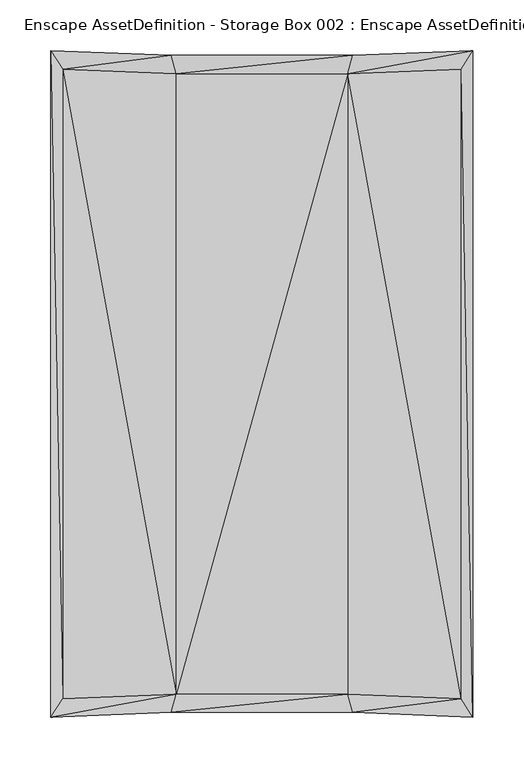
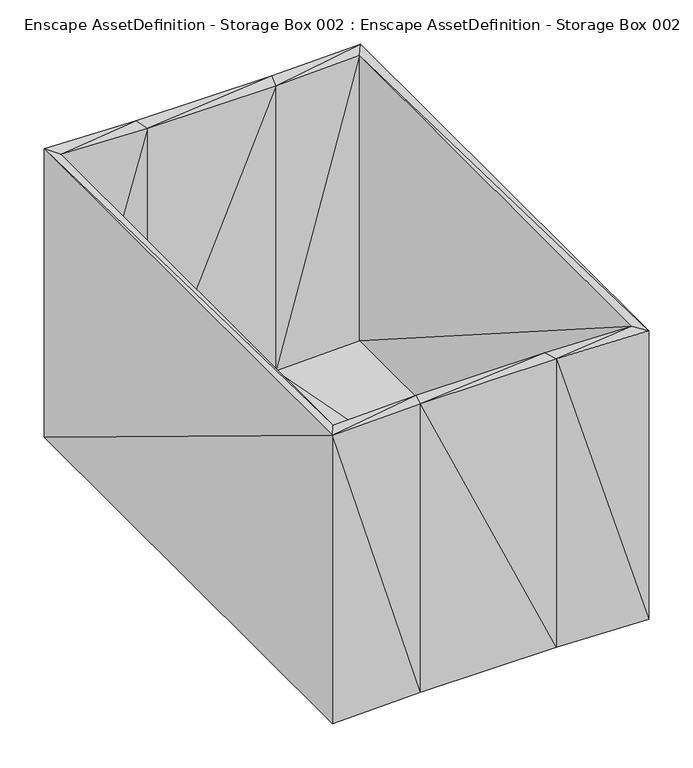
"""IFC4 building model written with IfcOpenShell, lengths in millimetres: geographic element geometry, Enscape AssetDefinition - Storage Box 002 : Enscape AssetDefinition - Storage Box 002."""

import ifcopenshell
import ifcopenshell.guid

model = None  # the IFC model being written
_history = None  # IfcOwnerHistory: only IFC2X3 demands one
_inside = {}  # id of a spatial element -> (the spatial element, [elements in it])
_under = {}  # id of a project, library or spatial element -> (it, [spatial elements below it])
_declared = {}  # id of a project -> (the project, [libraries it declares])
_typed = {}  # id of a type object -> (the type object, [elements of that type])
_made_of = {}  # id of a material, layer set ... -> (it, [elements and type objects made of it])


def new_model(schema):
    """Start an empty IFC model of exactly this schema.

    Asked for "IFC4X3", IfcOpenShell would pick the latest addendum, in which some entities
    have other attributes; the version numbers below select the first issue.
    IFC2X3 requires an IfcOwnerHistory on every rooted entity: one is made here for all.
    """
    global model, _history
    if schema == "IFC4X3":
        model = ifcopenshell.file(schema_version=(4, 3, 0, 0))
    else:
        model = ifcopenshell.file(schema=schema)
    _inside.clear()
    _under.clear()
    _declared.clear()
    _typed.clear()
    _made_of.clear()
    _history = None
    if model.schema == "IFC2X3":
        org = make("IfcOrganization", Name="unknown")
        user = make(
            "IfcPersonAndOrganization",
            ThePerson=make("IfcPerson", FamilyName="unknown"),
            TheOrganization=org,
        )
        app = make(
            "IfcApplication",
            ApplicationDeveloper=org,
            Version="unknown",
            ApplicationFullName="unknown",
            ApplicationIdentifier="unknown",
        )
        _history = make(
            "IfcOwnerHistory",
            OwningUser=user,
            OwningApplication=app,
            ChangeAction="ADDED",
            CreationDate=0,
        )
    return model


def make(cls, **values):
    """One entity of the class cls with the attributes given. An attribute that is None is left unset."""
    return model.create_entity(
        cls, **{name: value for name, value in values.items() if value is not None}
    )


def rooted(cls, **values):
    """An entity with a GlobalId (a new one), such as an element, a storey or a relation."""
    return make(cls, GlobalId=ifcopenshell.guid.new(), OwnerHistory=_history, **values)


def si_unit(unit_type, name, prefix=None):
    """IfcSIUnit, for example si_unit("LENGTHUNIT", "METRE", prefix="MILLI")."""
    return make("IfcSIUnit", UnitType=unit_type, Prefix=prefix, Name=name)


def assignment(units):
    """IfcUnitAssignment: the units of a project."""
    return None if units is None else make("IfcUnitAssignment", Units=units)


def point(xyz):
    """IfcCartesianPoint."""
    return None if xyz is None else make("IfcCartesianPoint", Coordinates=xyz)


def direction(xyz):
    """IfcDirection."""
    return None if xyz is None else make("IfcDirection", DirectionRatios=xyz)


def frame(location, z_axis=None, x_axis=None):
    """IfcAxis2Placement3D, a coordinate frame: its origin and axes. An axis left out is left unset."""
    return make(
        "IfcAxis2Placement3D",
        Location=point(location),
        Axis=direction(z_axis),
        RefDirection=direction(x_axis),
    )


def origin():
    """The frame at (0, 0, 0) with its axes left unset."""
    return frame((0.0, 0.0, 0.0))


def place(relative_to, where):
    """IfcLocalPlacement: puts the frame where relative to a parent placement (None: the world)."""
    return make(
        "IfcLocalPlacement", PlacementRelTo=relative_to, RelativePlacement=where
    )


def context(
    kind, dimensions, precision=None, world=None, true_north=None, identifier=None
):
    """IfcGeometricRepresentationContext, for example the 3D "Model" context."""
    return make(
        "IfcGeometricRepresentationContext",
        ContextIdentifier=identifier,
        ContextType=kind,
        CoordinateSpaceDimension=dimensions,
        Precision=precision,
        WorldCoordinateSystem=world,
        TrueNorth=true_north,
    )


def project(units=None, contexts=None):
    """IfcProject with its units and contexts."""
    return rooted(
        "IfcProject",
        Name="project",
        RepresentationContexts=contexts,
        UnitsInContext=assignment(units),
    )


def spatial(cls, under=None, at=None, **own):
    """A site, building, storey or space (cls), placed at a placement, below another one or the project."""
    s = rooted(cls, ObjectPlacement=at, **own)
    if under is not None:
        _under.setdefault(under.id(), (under, []))[1].append(s)
    return s


def faces_of(points, faces, orient=None, outer=None):
    """IfcFace entities. A face is a list of loops; a loop is a list of indices into points, from 0.

    orient and outer hold one flag for each loop. By default every Orientation is true, the
    first loop of a face is its IfcFaceOuterBound and the others are IfcFaceBound.
    """
    made = []
    for i, loops in enumerate(faces):
        bounds = []
        for j, loop in enumerate(loops):
            is_outer = j == 0 if outer is None else outer[i][j]
            bounds.append(
                make(
                    "IfcFaceOuterBound" if is_outer else "IfcFaceBound",
                    Bound=make("IfcPolyLoop", Polygon=[points[k] for k in loop]),
                    Orientation=True if orient is None else orient[i][j],
                )
            )
        made.append(make("IfcFace", Bounds=bounds))
    return made


def faceted_brep(points, faces, orient=None, outer=None, voids=None):
    """IfcFacetedBrep: a solid bounded by flat faces; with voids (closed shells), ...WithVoids."""
    shared = [point(p) for p in points]
    hull = make("IfcClosedShell", CfsFaces=faces_of(shared, faces, orient, outer))
    if voids is None:
        return make("IfcFacetedBrep", Outer=hull)
    return make(
        "IfcFacetedBrepWithVoids",
        Outer=hull,
        Voids=[
            make(cls, CfsFaces=faces_of(shared, fs, o, b)) for cls, fs, o, b in voids
        ],
    )


def shape(context_of_items, identifier, shape_type, items):
    """IfcShapeRepresentation: the items that make up one representation, for example the "Body"."""
    return make(
        "IfcShapeRepresentation",
        ContextOfItems=context_of_items,
        RepresentationIdentifier=identifier,
        RepresentationType=shape_type,
        Items=items,
    )


def source(mapping_origin, context_of_items, identifier, shape_type, items):
    """IfcRepresentationMap: a shape defined once, which mapped items show again and again."""
    return make(
        "IfcRepresentationMap",
        MappingOrigin=mapping_origin,
        MappedRepresentation=shape(context_of_items, identifier, shape_type, items),
    )


def transform(
    local_origin,
    x_axis=None,
    y_axis=None,
    z_axis=None,
    scale=None,
    scale2=None,
    scale3=None,
    uniform=True,
):
    """IfcCartesianTransformationOperator3D, or its non-uniform kind. x_axis, y_axis, z_axis: its Axis1, 2, 3."""
    if uniform:
        return make(
            "IfcCartesianTransformationOperator3D",
            Axis1=direction(x_axis),
            Axis2=direction(y_axis),
            LocalOrigin=point(local_origin),
            Scale=scale,
            Axis3=direction(z_axis),
        )
    return make(
        "IfcCartesianTransformationOperator3DnonUniform",
        Axis1=direction(x_axis),
        Axis2=direction(y_axis),
        LocalOrigin=point(local_origin),
        Scale=scale,
        Axis3=direction(z_axis),
        Scale2=scale2,
        Scale3=scale3,
    )


def mapped(mapping_source, mapping_target):
    """IfcMappedItem: shows the shape of a source again, moved by a transform."""
    return make(
        "IfcMappedItem", MappingSource=mapping_source, MappingTarget=mapping_target
    )


def made_of(thing, what):
    """Note that an element or type object is made of a material, layer set ...; save() writes the relation."""
    if what is not None:
        _made_of.setdefault(what.id(), (what, []))[1].append(thing)
    return thing


def element(
    cls,
    number,
    at=None,
    inside=None,
    cuts=None,
    type_object=None,
    material=None,
    context=None,
    identifier="Body",
    shape_type=None,
    held_by="IfcProductDefinitionShape",
    body=None,
    shapes=None,
    **own,
):
    """One element of the class cls, such as IfcWall. Its Tag is "e" and its number.

    at: its placement. inside: the storey or other place that contains it. cuts: it is an
    opening in that element (IfcRelVoidsElement). A single representation is given by context,
    identifier, shape_type and body (its items); several are given by shapes. held_by: the class
    of the entity that holds the representations. save() writes the other relations.
    """
    e = rooted(cls, Tag="e%d" % number, ObjectPlacement=at, **own)
    if body is not None:
        shapes = [shape(context, identifier, shape_type, body)]
    if shapes is not None:
        e.Representation = make(held_by, Representations=shapes)
    if inside is not None:
        _inside.setdefault(inside.id(), (inside, []))[1].append(e)
    if cuts is not None:
        rooted(
            "IfcRelVoidsElement", RelatingBuildingElement=cuts, RelatedOpeningElement=e
        )
    if type_object is not None:
        _typed.setdefault(type_object.id(), (type_object, []))[1].append(e)
    return made_of(e, material)


def aggregate(whole, parts):
    """IfcRelAggregates: a whole, such as a stair, and the parts it consists of."""
    return rooted("IfcRelAggregates", RelatingObject=whole, RelatedObjects=parts)


def save(model, path):
    """Write the relations noted so far, then the file.

    IfcRelAggregates (storeys below a building ...), IfcRelContainedInSpatialStructure (elements
    in a storey), IfcRelDefinesByType, IfcRelAssociatesMaterial and IfcRelDeclares: one each for
    every whole, place, type object, material and project.
    """
    for whole, parts in _under.values():
        aggregate(whole, parts)
    for where, things in _inside.values():
        rooted(
            "IfcRelContainedInSpatialStructure",
            RelatedElements=things,
            RelatingStructure=where,
        )
    for kind, things in _typed.values():
        rooted("IfcRelDefinesByType", RelatedObjects=things, RelatingType=kind)
    for what, things in _made_of.values():
        rooted("IfcRelAssociatesMaterial", RelatedObjects=things, RelatingMaterial=what)
    for by, libraries in _declared.values():
        rooted("IfcRelDeclares", RelatingContext=by, RelatedDefinitions=libraries)
    model.write(path)


def enscape_assetdefinition_storage_box_002_enscape_b95ea167(model_context):
    return source(origin(), model_context, "Body", "Brep", [
        faceted_brep([(-89.2077831, -323.0937317, 400.0), (89.2077831, -323.0937317, 0.0), (89.2077831, -323.0937317, 400.0), (-89.2077831, -323.0937317, 0.0), (207.5005984, -327.6325392, 0.0), (89.2077831, 323.0937317, 0.0), (207.5005984, 327.6325392, 0.0), (207.5005984, 327.6325392, 400.0), (207.5005984, -327.6325392, 400.0), (-89.2077831, 323.0937317, 0.0), (89.2077831, 323.0937317, 400.0), (196.0290969, 309.5209956, 399.1743569), (84.2758162, 305.2333676, 399.1743569), (196.0290969, -309.5209956, 399.1743569), (196.0290969, 309.5209956, 3.6585634), (84.2758162, 305.2333676, 3.6585634), (-84.2758162, 305.2333676, 399.1743569), (-84.2758162, 305.2333676, 3.6585634), (-84.2758162, -305.2333676, 3.6585634), (84.2758162, -305.2333676, 3.6585634), (196.0290969, -309.5209956, 3.6585634), (84.2758162, -305.2333676, 399.1743569), (-84.2758162, -305.2333676, 399.1743569), (-207.5005984, -327.6325392, 400.0), (-196.0290969, -309.5209956, 399.1743569), (-207.5005984, 327.6325392, 0.0), (-207.5005984, 327.6325392, 400.0), (-207.5005984, -327.6325392, 0.0), (-196.0290969, 309.5209956, 399.1743569), (-196.0290969, -309.5209956, 3.6585634), (-89.2077831, 323.0937317, 400.0), (-196.0290969, 309.5209956, 3.6585634)], [[[0, 1, 2]], [[1, 0, 3]], [[4, 2, 1]], [[3, 5, 1]], [[1, 6, 4]], [[6, 1, 5]], [[4, 7, 8]], [[7, 4, 6]], [[2, 4, 8]], [[5, 7, 6]], [[9, 10, 5]], [[7, 5, 10]], [[5, 3, 9]], [[11, 8, 7]], [[12, 7, 10]], [[7, 12, 11]], [[8, 11, 13]], [[13, 2, 8]], [[14, 13, 11]], [[15, 11, 12]], [[11, 15, 14]], [[10, 16, 12]], [[17, 12, 16]], [[12, 17, 15]], [[18, 15, 17]], [[15, 18, 19]], [[15, 20, 14]], [[20, 15, 19]], [[13, 14, 20]], [[20, 21, 13]], [[21, 20, 19]], [[2, 13, 21]], [[21, 0, 2]], [[0, 21, 22]], [[19, 22, 21]], [[22, 19, 18]], [[22, 23, 0]], [[23, 22, 24]], [[18, 24, 22]], [[23, 3, 0]], [[25, 23, 26]], [[23, 25, 27]], [[3, 23, 27]], [[24, 26, 23]], [[26, 24, 28]], [[29, 28, 24]], [[24, 18, 29]], [[30, 25, 26]], [[28, 30, 26]], [[25, 30, 9]], [[25, 3, 27]], [[3, 25, 9]], [[10, 9, 30]], [[16, 10, 30]], [[30, 28, 16]], [[28, 29, 31]], [[31, 16, 28]], [[18, 31, 29]], [[31, 18, 17]], [[16, 31, 17]]]),
    ])


if __name__ == "__main__":
    model = new_model("IFC4")
    model_context = context("Model", 3, world=origin())
    ifc_project = project(units=[si_unit("LENGTHUNIT", "METRE", prefix="MILLI")], contexts=[model_context])
    site = spatial("IfcSite", under=ifc_project)
    building = spatial("IfcBuilding", under=site)
    placement = place(None, origin())
    enscape_assetdefinition_storage_box_002_enscape_shape = enscape_assetdefinition_storage_box_002_enscape_b95ea167(model_context)
    element("IfcGeographicElement", 1, ObjectType="Enscape AssetDefinition - Storage Box 002 : Enscape AssetDefinition - Storage Box 002", at=placement, inside=building, context=model_context, shape_type="MappedRepresentation", body=[
        mapped(enscape_assetdefinition_storage_box_002_enscape_shape, transform((0.0, 0.0, 0.0), x_axis=(1.0, 0.0, 0.0), y_axis=(0.0, 1.0, 0.0), z_axis=(0.0, 0.0, 1.0))),
    ])
    save(model, "model.ifc")
